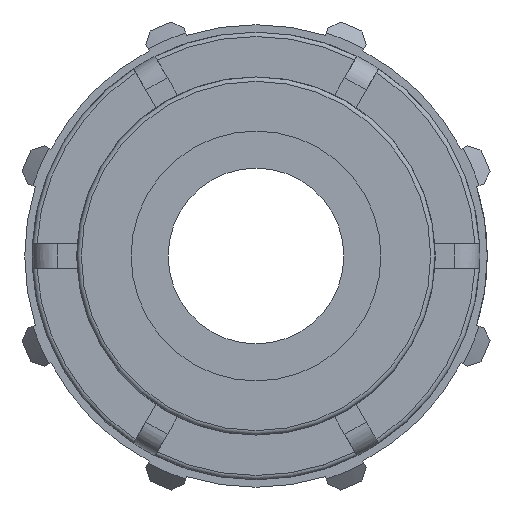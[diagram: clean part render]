
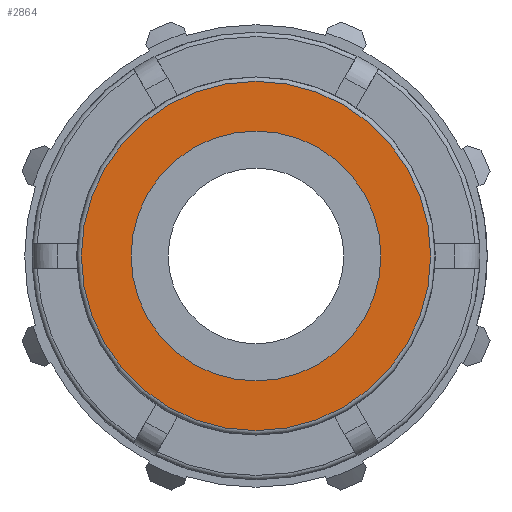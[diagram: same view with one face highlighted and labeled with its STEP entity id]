
A CAD part, left-side view. The second image highlights one B-rep face of the part: STEP entity #2864.
In plain terms, the highlighted planar face has unit normal (-1, 0, 0).
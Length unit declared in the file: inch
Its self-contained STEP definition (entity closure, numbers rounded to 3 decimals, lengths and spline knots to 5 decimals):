
#66=FACE_BOUND('',#814,.T.);
#549=PLANE('',#3106);
#659=FACE_OUTER_BOUND('',#813,.T.);
#813=EDGE_LOOP('',(#2161,#2162));
#814=EDGE_LOOP('',(#2163,#2164));
#973=CIRCLE('',#3103,0.66371);
#974=CIRCLE('',#3104,0.66371);
#976=CIRCLE('',#3107,0.47474);
#977=CIRCLE('',#3108,0.47474);
#1224=VERTEX_POINT('',#4779);
#1225=VERTEX_POINT('',#4781);
#1226=VERTEX_POINT('',#4786);
#1227=VERTEX_POINT('',#4787);
#1570=EDGE_CURVE('',#1224,#1225,#973,.T.);
#1571=EDGE_CURVE('',#1225,#1224,#974,.T.);
#1573=EDGE_CURVE('',#1226,#1227,#976,.T.);
#1574=EDGE_CURVE('',#1227,#1226,#977,.T.);
#2161=ORIENTED_EDGE('',*,*,#1571,.F.);
#2162=ORIENTED_EDGE('',*,*,#1570,.F.);
#2163=ORIENTED_EDGE('',*,*,#1573,.T.);
#2164=ORIENTED_EDGE('',*,*,#1574,.T.);
#2864=ADVANCED_FACE('',(#659,#66),#549,.T.);
#3103=AXIS2_PLACEMENT_3D('',#4782,#3631,#3632);
#3104=AXIS2_PLACEMENT_3D('',#4783,#3633,#3634);
#3106=AXIS2_PLACEMENT_3D('',#4785,#3637,#3638);
#3107=AXIS2_PLACEMENT_3D('',#4788,#3639,#3640);
#3108=AXIS2_PLACEMENT_3D('',#4789,#3641,#3642);
#3631=DIRECTION('center_axis',(1.,0.,0.));
#3632=DIRECTION('ref_axis',(0.,-1.,0.));
#3633=DIRECTION('center_axis',(1.,0.,0.));
#3634=DIRECTION('ref_axis',(0.,-1.,0.));
#3637=DIRECTION('center_axis',(-1.,0.,0.));
#3638=DIRECTION('ref_axis',(0.,0.,1.));
#3639=DIRECTION('center_axis',(1.,0.,0.));
#3640=DIRECTION('ref_axis',(0.,0.,-1.));
#3641=DIRECTION('center_axis',(1.,0.,0.));
#3642=DIRECTION('ref_axis',(0.,0.,-1.));
#4779=CARTESIAN_POINT('',(0.,0.,0.66371));
#4781=CARTESIAN_POINT('',(0.,0.66371,0.));
#4782=CARTESIAN_POINT('Origin',(0.,0.,0.));
#4783=CARTESIAN_POINT('Origin',(0.,0.,0.));
#4785=CARTESIAN_POINT('Origin',(0.,0.6804,0.));
#4786=CARTESIAN_POINT('',(0.,0.47474,0.));
#4787=CARTESIAN_POINT('',(0.,-0.47474,0.));
#4788=CARTESIAN_POINT('Origin',(0.,0.,0.));
#4789=CARTESIAN_POINT('Origin',(0.,0.,0.));
